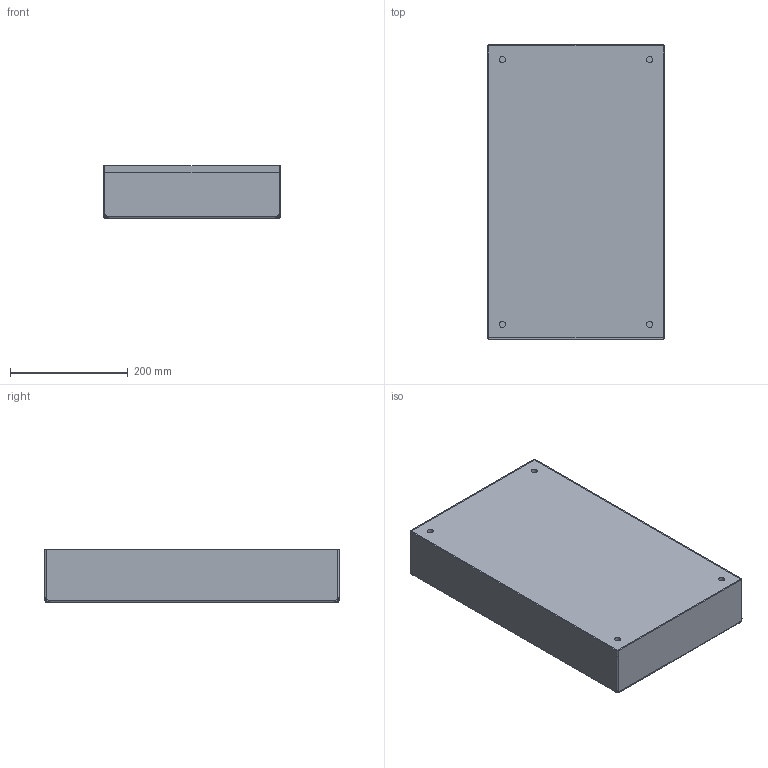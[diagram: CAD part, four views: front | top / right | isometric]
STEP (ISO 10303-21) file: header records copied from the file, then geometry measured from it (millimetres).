
FILE_DESCRIPTION(/* description */ (''),/* implementation_level */ '2;1');
FILE_NAME(/* name */ 'SMB-30-50.step',/* time_stamp */ '2023-07-05T14:13:46+09:00',/* author */ (''),/* organization */ (''),/* preprocessor_version */ 'ST-DEVELOPER v19.2',/* originating_system */ 'Autodesk Translation Framework v12.6.0.85',/* authorisation */ '');
FILE_SCHEMA (('AUTOMOTIVE_DESIGN { 1 0 10303 214 3 1 1 }'));
Length unit declared in the file: millimetre
Products named in the file (1): 3782-1_SMB-30-50
Bounding box: 300 x 500 x 90 mm (x, y, z)
Volume: 2333517 mm3; surface area: 892458.6 mm2
Topology: 2 solids, 2 shells, 57 faces, 140 edges, 88 vertices
Faces by surface type: bspline 24, plane 17, cylinder 16
Full cylindrical faces by diameter (mm): 10.274 x4
Entity records: 4544 total; most frequent: CARTESIAN_POINT 3246, ORIENTED_EDGE 280, DIRECTION 216, EDGE_CURVE 140, VERTEX_POINT 88, AXIS2_PLACEMENT_3D 82, EDGE_LOOP 66, FACE_OUTER_BOUND 57
